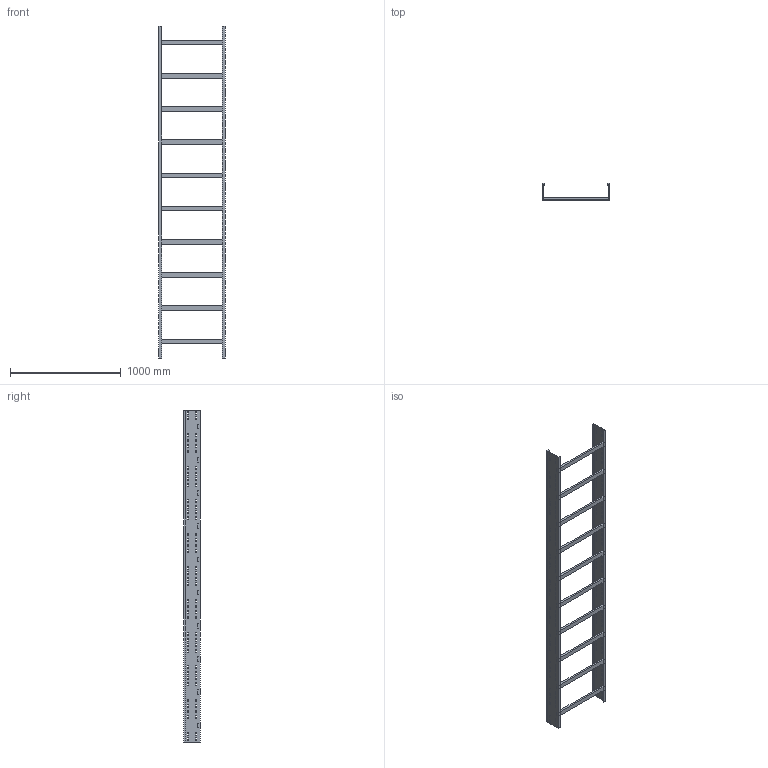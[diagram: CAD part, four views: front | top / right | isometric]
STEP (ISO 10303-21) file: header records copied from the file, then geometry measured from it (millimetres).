
FILE_DESCRIPTION (( 'STEP AP214' ), '1' );
FILE_NAME ('01J3F600.step', '2025-02-21T16:29:24', ( '' ), ( '' ), 'SwSTEP 2.0', 'SolidWorks 2023', '' );
FILE_SCHEMA (( 'AUTOMOTIVE_DESIGN' ));
Length unit declared in the file: millimetre
Products named in the file (3): TRAVERSINO_600; LONGH.H150; 01J3F600
Assembly tree (12 placements, depth 2):
  01J3F600
    LONGH.H150  x2
    TRAVERSINO_600  x10
Bounding box: 600 x 150 x 3000 mm (x, y, z)
Volume: 8007600 mm3; surface area: 3005288 mm2
Topology: 12 solids, 12 shells, 720 faces, 2088 edges, 1392 vertices
Faces by surface type: plane 720
Entity records: 11488 total; most frequent: CARTESIAN_POINT 2011, ORIENTED_EDGE 1992, DIRECTION 1698, EDGE_CURVE 996, VECTOR 996, LINE 996, VERTEX_POINT 664, EDGE_LOOP 496
